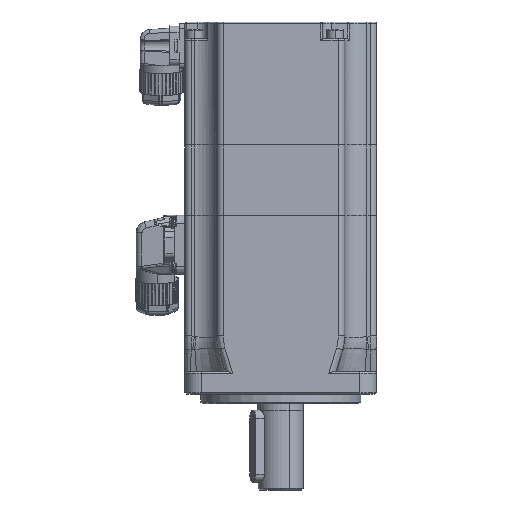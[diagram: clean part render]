
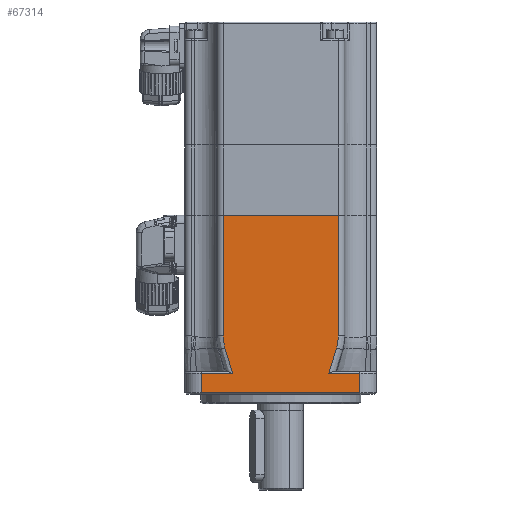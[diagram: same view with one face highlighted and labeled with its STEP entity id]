
A CAD part, front view. The second image highlights one B-rep face of the part: STEP entity #67314.
In plain terms, the highlighted planar face has unit normal (0, -1, 0).
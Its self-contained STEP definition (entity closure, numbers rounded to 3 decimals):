
#84 = EDGE_CURVE ( 'NONE', #48076, #64692, #69311, .T. ) ;
#1612 = CARTESIAN_POINT ( 'NONE',  ( 17.442, -30., -10.068 ) ) ;
#2349 = CARTESIAN_POINT ( 'NONE',  ( 24.75, -30., -18. ) ) ;
#3009 = B_SPLINE_CURVE_WITH_KNOTS ( 'NONE', 3,
 ( #124414, #34367, #64567, #98055, #8008, #48106 ),
 .UNSPECIFIED., .F., .F.,
 ( 4, 1, 1, 4 ),
 ( 0., 0.333, 0.667, 1. ),
 .UNSPECIFIED. ) ;
#3546 = EDGE_CURVE ( 'NONE', #8834, #106684, #43602, .T. ) ;
#4885 = VECTOR ( 'NONE', #42689, 1000. ) ;
#6266 = CARTESIAN_POINT ( 'NONE',  ( 17.442, -30., -10.068 ) ) ;
#7208 = LINE ( 'NONE', #78808, #36911 ) ;
#8008 = CARTESIAN_POINT ( 'NONE',  ( 17.181, -30., -10.933 ) ) ;
#8834 = VERTEX_POINT ( 'NONE', #19523 ) ;
#10140 = LINE ( 'NONE', #31823, #60833 ) ;
#10557 = CARTESIAN_POINT ( 'NONE',  ( -18., -30., -6.287 ) ) ;
#12811 = DIRECTION ( 'NONE',  ( 0., -1., 0. ) ) ;
#13114 = EDGE_LOOP ( 'NONE', ( #79393, #87686, #124739, #95715, #13905, #81344, #58029, #50790, #106833, #114769, #69997, #103685 ) ) ;
#13531 = CARTESIAN_POINT ( 'NONE',  ( 17.664, -30., -9.265 ) ) ;
#13883 = EDGE_CURVE ( 'NONE', #88581, #8834, #114984, .T. ) ;
#13905 = ORIENTED_EDGE ( 'NONE', *, *, #39358, .F. ) ;
#16147 = CARTESIAN_POINT ( 'NONE',  ( -15.846, -30., -15.319 ) ) ;
#19523 = CARTESIAN_POINT ( 'NONE',  ( -17.442, -30., -10.068 ) ) ;
#21692 = CARTESIAN_POINT ( 'NONE',  ( -17.567, -30., -9.637 ) ) ;
#23506 = VECTOR ( 'NONE', #112624, 1000. ) ;
#25029 = VERTEX_POINT ( 'NONE', #2349 ) ;
#28037 = VERTEX_POINT ( 'NONE', #47608 ) ;
#29274 = DIRECTION ( 'NONE',  ( 1., 0., 0. ) ) ;
#30904 = CARTESIAN_POINT ( 'NONE',  ( -17.981, -30., -7.119 ) ) ;
#31039 = EDGE_CURVE ( 'NONE', #105041, #43154, #7208, .T. ) ;
#31818 = EDGE_CURVE ( 'NONE', #46895, #48076, #3009, .T. ) ;
#31823 = CARTESIAN_POINT ( 'NONE',  ( -18., -30., 31.5 ) ) ;
#34005 = CARTESIAN_POINT ( 'NONE',  ( -17.812, -30., -8.529 ) ) ;
#34367 = CARTESIAN_POINT ( 'NONE',  ( 15.299, -30., -17.103 ) ) ;
#34429 = CARTESIAN_POINT ( 'NONE',  ( -18., -30., -6.287 ) ) ;
#36911 = VECTOR ( 'NONE', #69587, 1000. ) ;
#39358 = EDGE_CURVE ( 'NONE', #108983, #64692, #81738, .T. ) ;
#40530 = VECTOR ( 'NONE', #29274, 1000. ) ;
#41011 = DIRECTION ( 'NONE',  ( 0., 0., -1. ) ) ;
#42689 = DIRECTION ( 'NONE',  ( 1., 0., 0. ) ) ;
#43022 = DIRECTION ( 'NONE',  ( 0., 0., -1. ) ) ;
#43154 = VERTEX_POINT ( 'NONE', #125613 ) ;
#43602 = B_SPLINE_CURVE_WITH_KNOTS ( 'NONE', 3,
 ( #108129, #77239, #108775, #16147, #126575, #128514 ),
 .UNSPECIFIED., .F., .F.,
 ( 4, 1, 1, 4 ),
 ( 0., 0.333, 0.667, 1. ),
 .UNSPECIFIED. ) ;
#44406 = CARTESIAN_POINT ( 'NONE',  ( 17.909, -30., -7.866 ) ) ;
#46351 = CARTESIAN_POINT ( 'NONE',  ( 17.812, -30., -8.533 ) ) ;
#46895 = VERTEX_POINT ( 'NONE', #119617 ) ;
#47608 = CARTESIAN_POINT ( 'NONE',  ( 24.75, -30., -24. ) ) ;
#47917 = CARTESIAN_POINT ( 'NONE',  ( 18., -30., 31.5 ) ) ;
#48076 = VERTEX_POINT ( 'NONE', #1612 ) ;
#48106 = CARTESIAN_POINT ( 'NONE',  ( 17.442, -30., -10.068 ) ) ;
#50790 = ORIENTED_EDGE ( 'NONE', *, *, #13883, .T. ) ;
#53713 = CARTESIAN_POINT ( 'NONE',  ( -17.442, -30., -10.068 ) ) ;
#54899 = CARTESIAN_POINT ( 'NONE',  ( 18., -30., -6.287 ) ) ;
#56600 = DIRECTION ( 'NONE',  ( -1., 0., 0. ) ) ;
#58029 = ORIENTED_EDGE ( 'NONE', *, *, #79103, .T. ) ;
#60151 = CARTESIAN_POINT ( 'NONE',  ( 18., -30., 31.5 ) ) ;
#60414 = VECTOR ( 'NONE', #76985, 1000. ) ;
#60833 = VECTOR ( 'NONE', #41011, 1000. ) ;
#61219 = EDGE_CURVE ( 'NONE', #28037, #25029, #106573, .T. ) ;
#61833 = VERTEX_POINT ( 'NONE', #91913 ) ;
#63703 = CARTESIAN_POINT ( 'NONE',  ( 24.75, -30., -24. ) ) ;
#64035 = PLANE ( 'NONE',  #128651 ) ;
#64567 = CARTESIAN_POINT ( 'NONE',  ( 15.846, -30., -15.318 ) ) ;
#64692 = VERTEX_POINT ( 'NONE', #103150 ) ;
#67314 = ADVANCED_FACE ( 'NONE', ( #93635 ), #64035, .T. ) ;
#68567 = LINE ( 'NONE', #108674, #94676 ) ;
#69311 = B_SPLINE_CURVE_WITH_KNOTS ( 'NONE', 3,
 ( #6266, #104215, #13531, #46351, #44406, #125244, #95664, #75927, #54899 ),
 .UNSPECIFIED., .F., .F.,
 ( 4, 1, 1, 1, 1, 1, 4 ),
 ( 0., 0.167, 0.333, 0.5, 0.667, 0.833, 1. ),
 .UNSPECIFIED. ) ;
#69587 = DIRECTION ( 'NONE',  ( 0., 0., -1. ) ) ;
#69804 = EDGE_CURVE ( 'NONE', #43154, #28037, #122902, .T. ) ;
#69997 = ORIENTED_EDGE ( 'NONE', *, *, #31039, .T. ) ;
#70394 = VECTOR ( 'NONE', #56600, 1000. ) ;
#71366 = CARTESIAN_POINT ( 'NONE',  ( -15.024, -30., -18. ) ) ;
#71660 = CARTESIAN_POINT ( 'NONE',  ( -17.694, -30., -9.12 ) ) ;
#74548 = CARTESIAN_POINT ( 'NONE',  ( -30., -30., -24.5 ) ) ;
#75706 = CARTESIAN_POINT ( 'NONE',  ( 24.75, -30., -24.5 ) ) ;
#75927 = CARTESIAN_POINT ( 'NONE',  ( 18., -30., -6.428 ) ) ;
#76985 = DIRECTION ( 'NONE',  ( 0., 0., 1. ) ) ;
#77239 = CARTESIAN_POINT ( 'NONE',  ( -17.181, -30., -10.933 ) ) ;
#78808 = CARTESIAN_POINT ( 'NONE',  ( -24.75, -30., -24.5 ) ) ;
#79103 = EDGE_CURVE ( 'NONE', #61833, #88581, #10140, .T. ) ;
#79393 = ORIENTED_EDGE ( 'NONE', *, *, #61219, .T. ) ;
#79580 = CARTESIAN_POINT ( 'NONE',  ( -18., -30., -6.572 ) ) ;
#80881 = CARTESIAN_POINT ( 'NONE',  ( -17.911, -30., -7.862 ) ) ;
#81344 = ORIENTED_EDGE ( 'NONE', *, *, #84562, .F. ) ;
#81738 = LINE ( 'NONE', #111336, #23506 ) ;
#84562 = EDGE_CURVE ( 'NONE', #61833, #108983, #119344, .T. ) ;
#87686 = ORIENTED_EDGE ( 'NONE', *, *, #106216, .T. ) ;
#88581 = VERTEX_POINT ( 'NONE', #34429 ) ;
#90615 = EDGE_CURVE ( 'NONE', #106684, #105041, #68567, .T. ) ;
#91913 = CARTESIAN_POINT ( 'NONE',  ( -18., -30., 31.5 ) ) ;
#93635 = FACE_OUTER_BOUND ( 'NONE', #13114, .T. ) ;
#94676 = VECTOR ( 'NONE', #120478, 1000. ) ;
#95664 = CARTESIAN_POINT ( 'NONE',  ( 17.995, -30., -6.735 ) ) ;
#95715 = ORIENTED_EDGE ( 'NONE', *, *, #84, .T. ) ;
#98055 = CARTESIAN_POINT ( 'NONE',  ( 16.654, -30., -12.673 ) ) ;
#103150 = CARTESIAN_POINT ( 'NONE',  ( 18., -30., -6.287 ) ) ;
#103685 = ORIENTED_EDGE ( 'NONE', *, *, #69804, .T. ) ;
#103687 = CARTESIAN_POINT ( 'NONE',  ( -17.483, -30., -9.932 ) ) ;
#104215 = CARTESIAN_POINT ( 'NONE',  ( 17.525, -30., -9.794 ) ) ;
#105041 = VERTEX_POINT ( 'NONE', #123372 ) ;
#106216 = EDGE_CURVE ( 'NONE', #25029, #46895, #118375, .T. ) ;
#106573 = LINE ( 'NONE', #75706, #60414 ) ;
#106684 = VERTEX_POINT ( 'NONE', #71366 ) ;
#106833 = ORIENTED_EDGE ( 'NONE', *, *, #3546, .T. ) ;
#108129 = CARTESIAN_POINT ( 'NONE',  ( -17.442, -30., -10.068 ) ) ;
#108674 = CARTESIAN_POINT ( 'NONE',  ( -30., -30., -18. ) ) ;
#108775 = CARTESIAN_POINT ( 'NONE',  ( -16.654, -30., -12.673 ) ) ;
#108983 = VERTEX_POINT ( 'NONE', #47917 ) ;
#109159 = CARTESIAN_POINT ( 'NONE',  ( -30., -30., -18. ) ) ;
#111336 = CARTESIAN_POINT ( 'NONE',  ( 18., -30., 31.5 ) ) ;
#112624 = DIRECTION ( 'NONE',  ( 0., 0., -1. ) ) ;
#114769 = ORIENTED_EDGE ( 'NONE', *, *, #90615, .T. ) ;
#114984 = B_SPLINE_CURVE_WITH_KNOTS ( 'NONE', 3,
 ( #10557, #79580, #30904, #80881, #34005, #71660, #21692, #103687, #53713 ),
 .UNSPECIFIED., .F., .F.,
 ( 4, 1, 1, 1, 1, 1, 4 ),
 ( 0., 0.167, 0.333, 0.5, 0.667, 0.833, 1. ),
 .UNSPECIFIED. ) ;
#118375 = LINE ( 'NONE', #109159, #70394 ) ;
#119344 = LINE ( 'NONE', #60151, #40530 ) ;
#119617 = CARTESIAN_POINT ( 'NONE',  ( 15.024, -30., -18. ) ) ;
#120478 = DIRECTION ( 'NONE',  ( -1., 0., 0. ) ) ;
#122902 = LINE ( 'NONE', #63703, #4885 ) ;
#123372 = CARTESIAN_POINT ( 'NONE',  ( -24.75, -30., -18. ) ) ;
#124414 = CARTESIAN_POINT ( 'NONE',  ( 15.024, -30., -18. ) ) ;
#124739 = ORIENTED_EDGE ( 'NONE', *, *, #31818, .T. ) ;
#125244 = CARTESIAN_POINT ( 'NONE',  ( 17.967, -30., -7.266 ) ) ;
#125613 = CARTESIAN_POINT ( 'NONE',  ( -24.75, -30., -24. ) ) ;
#126575 = CARTESIAN_POINT ( 'NONE',  ( -15.299, -30., -17.103 ) ) ;
#128514 = CARTESIAN_POINT ( 'NONE',  ( -15.024, -30., -18. ) ) ;
#128651 = AXIS2_PLACEMENT_3D ( 'NONE', #74548, #12811, #43022 ) ;
